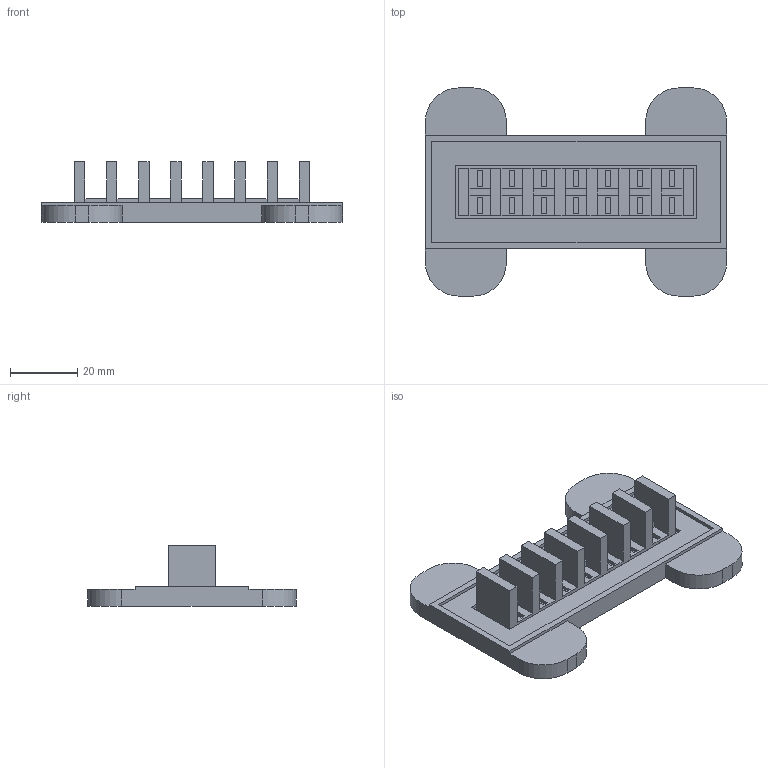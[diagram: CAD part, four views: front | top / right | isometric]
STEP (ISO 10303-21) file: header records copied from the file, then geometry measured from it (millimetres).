
FILE_DESCRIPTION(/* description */ (''),/* implementation_level */ '2;1');
FILE_NAME(/* name */ 'Cavity8CB v1.step',/* time_stamp */ '2024-07-04T14:22:29+05:30',/* author */ (''),/* organization */ (''),/* preprocessor_version */ 'ST-DEVELOPER v20',/* originating_system */ 'Autodesk Translation Framework v13.14.0.145',/* authorisation */ '');
FILE_SCHEMA (('AUTOMOTIVE_DESIGN { 1 0 10303 214 3 1 1 }'));
Length unit declared in the file: millimetre
Products named in the file (1): Cavity8CB
Bounding box: 89.3 x 61.8 x 18 mm (x, y, z)
Volume: 25684.8 mm3; surface area: 14658.2 mm2
Topology: 1 solids, 1 shells, 173 faces, 456 edges, 302 vertices
Faces by surface type: plane 165, cylinder 8
Entity records: 5271 total; most frequent: CARTESIAN_POINT 932, ORIENTED_EDGE 912, DIRECTION 820, EDGE_CURVE 456, LINE 440, VECTOR 440, VERTEX_POINT 302, EDGE_LOOP 190
